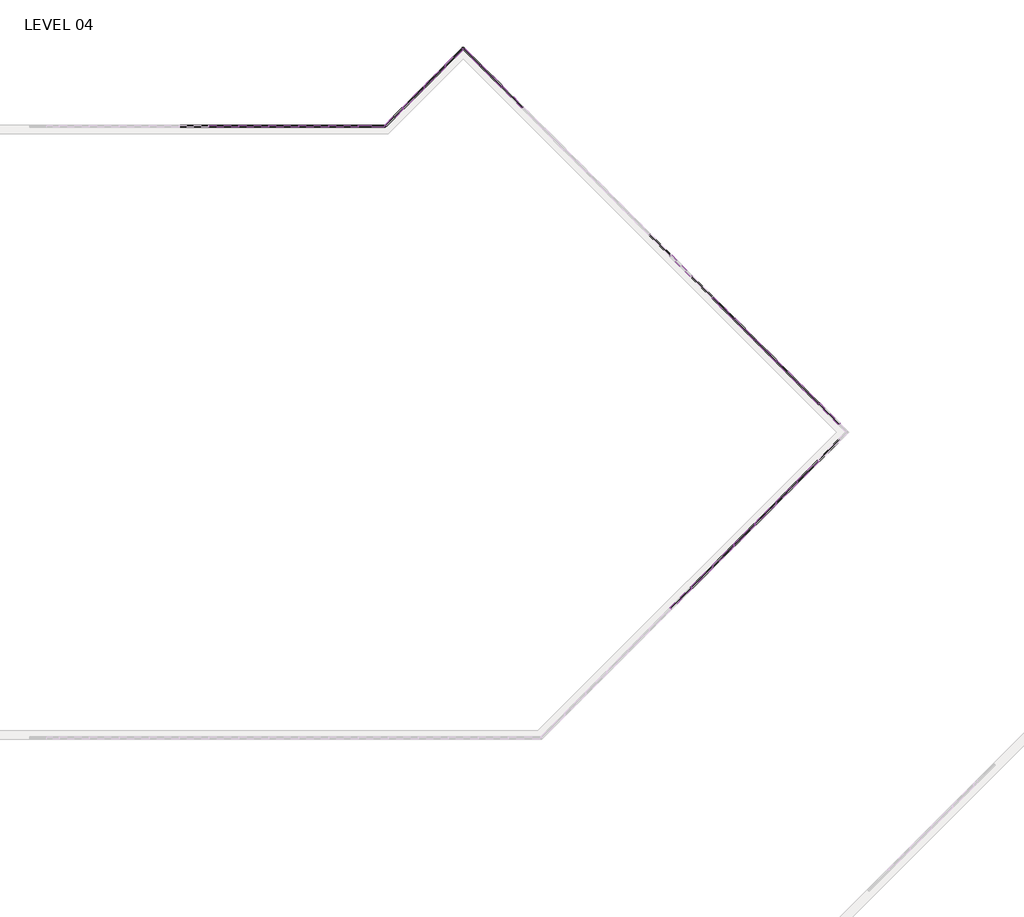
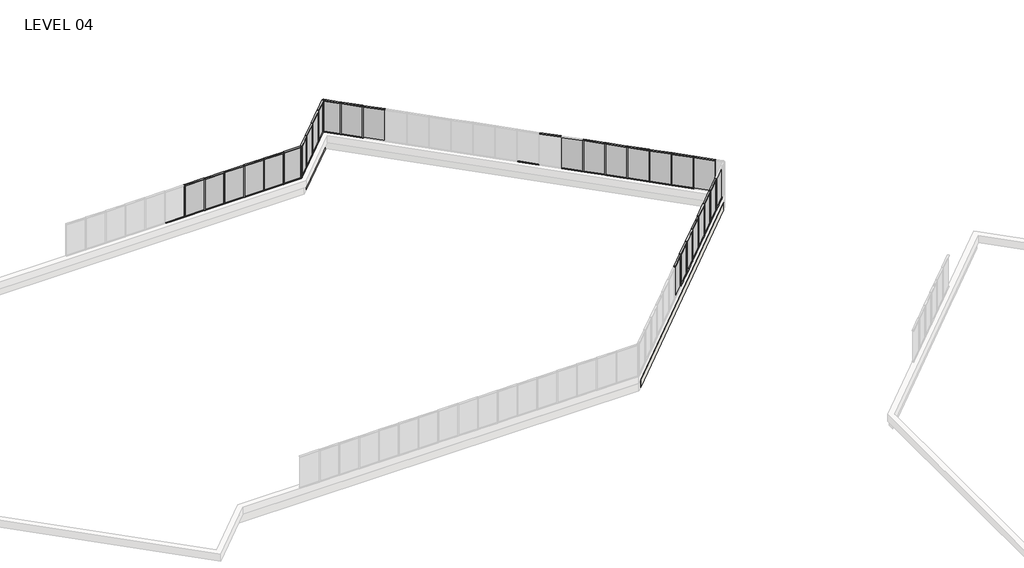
# One storey, part 15 of 17: 82 members, 28 plates, 2 walls.
"""IFC4 building model written with IfcOpenShell, lengths in millimetres."""

from ifc_helpers import new_model, si_unit, origin, place, context, project, spatial, faceted_brep, transform, mapped, element, save
from components import member_5247f267, member_e44af9ab, member_800970d4, member_45eb7f2e, member_ed9c17d6, member_53409b32, member_43bac76b, member_0b71a88d, plate_67294edd, plate_048e4634, plate_aaac5d3d, plate_9c66726c, plate_e0fd5134, plate_62af1d3c, plate_903242d9, plate_0d1907f3, plate_15429445

model = new_model("IFC4")

# Units and contexts
model_context = context("Model", 3, world=origin())
ifc_project = project(units=[si_unit("LENGTHUNIT", "METRE", prefix="MILLI")], contexts=[model_context])

# Site, building, storey
site = spatial("IfcSite", under=ifc_project)
building = spatial("IfcBuilding", under=site)
storey = spatial("IfcBuildingStorey", under=building, Name="LEVEL 04", Elevation=12052.3)

# Members
placement = place(None, origin())
member_shape = member_5247f267(model_context)
element("IfcMember", 1, ObjectType="Rectangular Mullion : 2\" x 4.5\" rectangular", at=placement, inside=storey, context=model_context, shape_type="MappedRepresentation", body=[
    mapped(member_shape, transform((39706.55, 120127.9523049, 12052.3), x_axis=(0.0, 0.0, -1.0), y_axis=(0.0, 1.0, 0.0), z_axis=(1.0, 0.0, 0.0))),
])
element("IfcMember", 2, ObjectType="Rectangular Mullion : 2\" x 4.5\" rectangular", at=placement, inside=storey, context=model_context, shape_type="MappedRepresentation", body=[
    mapped(member_shape, transform((38182.55, 120127.9523049, 12052.3), x_axis=(0.0, 0.0, -1.0), y_axis=(0.0, 1.0, 0.0), z_axis=(1.0, 0.0, 0.0))),
])
element("IfcMember", 3, ObjectType="Rectangular Mullion : 2\" x 4.5\" rectangular", at=placement, inside=storey, context=model_context, shape_type="MappedRepresentation", body=[
    mapped(member_shape, transform((36658.55, 120127.9523049, 12052.3), x_axis=(0.0, 0.0, -1.0), y_axis=(0.0, 1.0, 0.0), z_axis=(1.0, 0.0, 0.0))),
])
element("IfcMember", 4, ObjectType="Rectangular Mullion : 2\" x 4.5\" rectangular", at=placement, inside=storey, context=model_context, shape_type="MappedRepresentation", body=[
    mapped(member_shape, transform((35134.55, 120127.9523049, 12052.3), x_axis=(0.0, 0.0, -1.0), y_axis=(0.0, 1.0, 0.0), z_axis=(1.0, 0.0, 0.0))),
])
element("IfcMember", 5, ObjectType="Rectangular Mullion : 2\" x 4.5\" rectangular", at=placement, inside=storey, context=model_context, shape_type="MappedRepresentation", body=[
    mapped(member_shape, transform((32086.55, 120127.9523049, 12052.3), x_axis=(0.0, 0.0, -1.0), y_axis=(0.0, 1.0, 0.0), z_axis=(1.0, 0.0, 0.0))),
])
element("IfcMember", 6, ObjectType="Rectangular Mullion : 2\" x 4.5\" rectangular", at=placement, inside=storey, context=model_context, shape_type="MappedRepresentation", body=[
    mapped(member_shape, transform((33610.55, 120127.9523049, 12052.3), x_axis=(0.0, 0.0, -1.0), y_axis=(0.0, 1.0, 0.0), z_axis=(1.0, 0.0, 0.0))),
])
element("IfcMember", 7, ObjectType="Rectangular Mullion : 2\" x 4.5\" rectangular", at=placement, inside=storey, context=model_context, shape_type="MappedRepresentation", body=[
    mapped(member_shape, transform((56719.8907816, 96634.0369509, 12052.3), x_axis=(0.0, 0.0, -1.0), y_axis=(0.7071067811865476, -0.7071067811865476, 0.0), z_axis=(-0.7071067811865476, -0.7071067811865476, 0.0))),
])
element("IfcMember", 8, ObjectType="Rectangular Mullion : 2\" x 4.5\" rectangular", at=placement, inside=storey, context=model_context, shape_type="MappedRepresentation", body=[
    mapped(member_shape, transform((57797.5067145, 97711.6528837, 12052.3), x_axis=(0.0, 0.0, -1.0), y_axis=(0.7071067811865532, -0.7071067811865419, 0.0), z_axis=(-0.7071067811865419, -0.7071067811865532, 0.0))),
])
element("IfcMember", 9, ObjectType="Rectangular Mullion : 2\" x 4.5\" rectangular", at=placement, inside=storey, context=model_context, shape_type="MappedRepresentation", body=[
    mapped(member_shape, transform((58875.1226473, 98789.2688165, 12052.3), x_axis=(0.0, 0.0, -1.0), y_axis=(0.7071067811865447, -0.7071067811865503, 0.0), z_axis=(-0.7071067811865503, -0.7071067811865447, 0.0))),
])
element("IfcMember", 10, ObjectType="Rectangular Mullion : 2\" x 4.5\" rectangular", at=placement, inside=storey, context=model_context, shape_type="MappedRepresentation", body=[
    mapped(member_shape, transform((61030.3693146, 100944.5154839, 12052.3), x_axis=(0.0, 0.0, -1.0), y_axis=(0.7071067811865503, -0.7071067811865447, 0.0), z_axis=(-0.7071067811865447, -0.7071067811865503, 0.0))),
])
element("IfcMember", 11, ObjectType="Rectangular Mullion : 2\" x 4.5\" rectangular", at=placement, inside=storey, context=model_context, shape_type="MappedRepresentation", body=[
    mapped(member_shape, transform((59952.7459809, 99866.8921502, 12052.3), x_axis=(0.0, 0.0, -1.0), y_axis=(0.7071067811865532, -0.7071067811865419, 0.0), z_axis=(-0.7071067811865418, -0.7071067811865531, 0.0))),
])
element("IfcMember", 12, ObjectType="Rectangular Mullion : 2\" x 4.5\" rectangular", at=placement, inside=storey, context=model_context, shape_type="MappedRepresentation", body=[
    mapped(member_shape, transform((62108.0000491, 102022.1462184, 12052.3), x_axis=(0.0, 0.0, -1.0), y_axis=(0.7071067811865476, -0.7071067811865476, 0.0), z_axis=(-0.7071067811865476, -0.7071067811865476, 0.0))),
])
element("IfcMember", 13, ObjectType="Rectangular Mullion : 2\" x 4.5\" rectangular", at=placement, inside=storey, context=model_context, shape_type="MappedRepresentation", body=[
    mapped(member_shape, transform((63185.6307836, 103099.7769529, 12052.3), x_axis=(0.0, 0.0, -1.0), y_axis=(0.7071067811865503, -0.7071067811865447, 0.0), z_axis=(-0.7071067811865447, -0.7071067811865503, 0.0))),
])
element("IfcMember", 14, ObjectType="Rectangular Mullion : 2\" x 4.5\" rectangular", at=placement, inside=storey, context=model_context, shape_type="MappedRepresentation", body=[
    mapped(member_shape, transform((62072.0790246, 107097.5294159, 12052.3), x_axis=(0.0, 0.0, -1.0), y_axis=(0.7071067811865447, 0.7071067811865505, 0.0), z_axis=(0.7071067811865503, -0.7071067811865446, 0.0))),
])
element("IfcMember", 15, ObjectType="Rectangular Mullion : 2\" x 4.5\" rectangular", at=placement, inside=storey, context=model_context, shape_type="MappedRepresentation", body=[
    mapped(member_shape, transform((60994.4482901, 108175.1601505, 12052.3), x_axis=(0.0, 0.0, -1.0), y_axis=(0.7071067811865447, 0.7071067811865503, 0.0), z_axis=(0.7071067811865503, -0.7071067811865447, 0.0))),
])
element("IfcMember", 16, ObjectType="Rectangular Mullion : 2\" x 4.5\" rectangular", at=placement, inside=storey, context=model_context, shape_type="MappedRepresentation", body=[
    mapped(member_shape, transform((58839.2225556, 110330.385885, 12052.3), x_axis=(0.0, 0.0, -1.0), y_axis=(0.7071067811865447, 0.7071067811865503, 0.0), z_axis=(0.7071067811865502, -0.7071067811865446, 0.0))),
])
element("IfcMember", 17, ObjectType="Rectangular Mullion : 2\" x 4.5\" rectangular", at=placement, inside=storey, context=model_context, shape_type="MappedRepresentation", body=[
    mapped(member_shape, transform((57761.6275556, 111407.980885, 12052.3), x_axis=(0.0, 0.0, -1.0), y_axis=(0.7071067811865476, 0.7071067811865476, 0.0), z_axis=(0.7071067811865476, -0.7071067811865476, 0.0))),
])
element("IfcMember", 18, ObjectType="Rectangular Mullion : 2\" x 4.5\" rectangular", at=placement, inside=storey, context=model_context, shape_type="MappedRepresentation", body=[
    mapped(member_shape, transform((63149.7097592, 106019.8986814, 12052.3), x_axis=(0.0, 0.0, -1.0), y_axis=(0.7071067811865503, 0.7071067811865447, 0.0), z_axis=(0.7071067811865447, -0.7071067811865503, 0.0))),
])
element("IfcMember", 19, ObjectType="Rectangular Mullion : 2\" x 4.5\" rectangular", at=placement, inside=storey, context=model_context, shape_type="MappedRepresentation", body=[
    mapped(member_shape, transform((59916.8354228, 109252.7730177, 12052.3), x_axis=(0.0, 0.0, -1.0), y_axis=(0.7071067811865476, 0.7071067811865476, 0.0), z_axis=(0.7071067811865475, -0.7071067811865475, 0.0))),
])
element("IfcMember", 20, ObjectType="Rectangular Mullion : 2\" x 4.5\" rectangular", at=placement, inside=storey, context=model_context, shape_type="MappedRepresentation", body=[
    mapped(member_shape, transform((47009.3767128, 122160.2317277, 12052.3), x_axis=(0.0, 0.0, -1.0), y_axis=(0.7071067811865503, 0.7071067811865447, 0.0), z_axis=(0.7071067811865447, -0.7071067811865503, 0.0))),
])
element("IfcMember", 21, ObjectType="Rectangular Mullion : 2\" x 4.5\" rectangular", at=placement, inside=storey, context=model_context, shape_type="MappedRepresentation", body=[
    mapped(member_shape, transform((43059.572889, 122097.2813296, 12052.3), x_axis=(0.0, 0.0, -1.0), y_axis=(-0.7071067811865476, 0.7071067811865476, 0.0), z_axis=(0.7071067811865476, 0.7071067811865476, 0.0))),
])
element("IfcMember", 22, ObjectType="Rectangular Mullion : 2\" x 4.5\" rectangular", at=placement, inside=storey, context=model_context, shape_type="MappedRepresentation", body=[
    mapped(member_shape, transform((44137.2036235, 123174.9120641, 12052.3), x_axis=(0.0, 0.0, -1.0), y_axis=(-0.7071067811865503, 0.7071067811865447, 0.0), z_axis=(0.7071067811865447, 0.7071067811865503, 0.0))),
])
element("IfcMember", 23, ObjectType="Rectangular Mullion : 2\" x 4.5\" rectangular", at=placement, inside=storey, context=model_context, shape_type="MappedRepresentation", body=[
    mapped(member_shape, transform((38233.35, 120127.9523049, 14643.1), x_axis=(0.0, 0.0, 1.0), y_axis=(0.0, 1.0, 0.0), z_axis=(-1.0, 0.0, 0.0))),
])
element("IfcMember", 24, ObjectType="Rectangular Mullion : 2\" x 4.5\" rectangular", at=placement, inside=storey, context=model_context, shape_type="MappedRepresentation", body=[
    mapped(member_shape, transform((36709.35, 120127.9523049, 14643.1), x_axis=(0.0, 0.0, 1.0), y_axis=(0.0, 1.0, 0.0), z_axis=(-1.0, 0.0, 0.0))),
])
element("IfcMember", 25, ObjectType="Rectangular Mullion : 2\" x 4.5\" rectangular", at=placement, inside=storey, context=model_context, shape_type="MappedRepresentation", body=[
    mapped(member_shape, transform((35185.35, 120127.9523049, 14643.1), x_axis=(0.0, 0.0, 1.0), y_axis=(0.0, 1.0, 0.0), z_axis=(-1.0, 0.0, 0.0))),
])
element("IfcMember", 26, ObjectType="Rectangular Mullion : 2\" x 4.5\" rectangular", at=placement, inside=storey, context=model_context, shape_type="MappedRepresentation", body=[
    mapped(member_shape, transform((32137.35, 120127.9523049, 14643.1), x_axis=(0.0, 0.0, 1.0), y_axis=(0.0, 1.0, 0.0), z_axis=(-1.0, 0.0, 0.0))),
])
element("IfcMember", 27, ObjectType="Rectangular Mullion : 2\" x 4.5\" rectangular", at=placement, inside=storey, context=model_context, shape_type="MappedRepresentation", body=[
    mapped(member_shape, transform((33661.35, 120127.9523049, 14643.1), x_axis=(0.0, 0.0, 1.0), y_axis=(0.0, 1.0, 0.0), z_axis=(-1.0, 0.0, 0.0))),
])
element("IfcMember", 28, ObjectType="Rectangular Mullion : 2\" x 4.5\" rectangular", at=placement, inside=storey, context=model_context, shape_type="MappedRepresentation", body=[
    mapped(member_shape, transform((56683.9697572, 96598.1159265, 14643.1), x_axis=(0.0, 0.0, 1.0), y_axis=(0.7071067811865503, -0.7071067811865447, 0.0), z_axis=(0.7071067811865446, 0.7071067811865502, 0.0))),
])
element("IfcMember", 29, ObjectType="Rectangular Mullion : 2\" x 4.5\" rectangular", at=placement, inside=storey, context=model_context, shape_type="MappedRepresentation", body=[
    mapped(member_shape, transform((57761.58569, 97675.7318593, 14643.1), x_axis=(0.0, 0.0, 1.0), y_axis=(0.7071067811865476, -0.7071067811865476, 0.0), z_axis=(0.7071067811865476, 0.7071067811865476, 0.0))),
])
element("IfcMember", 30, ObjectType="Rectangular Mullion : 2\" x 4.5\" rectangular", at=placement, inside=storey, context=model_context, shape_type="MappedRepresentation", body=[
    mapped(member_shape, transform((58839.2016228, 98753.3477921, 14643.1), x_axis=(0.0, 0.0, 1.0), y_axis=(0.7071067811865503, -0.7071067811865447, 0.0), z_axis=(0.7071067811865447, 0.7071067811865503, 0.0))),
])
element("IfcMember", 31, ObjectType="Rectangular Mullion : 2\" x 4.5\" rectangular", at=placement, inside=storey, context=model_context, shape_type="MappedRepresentation", body=[
    mapped(member_shape, transform((60994.4482901, 100908.5944594, 14643.1), x_axis=(0.0, 0.0, 1.0), y_axis=(0.7071067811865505, -0.7071067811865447, 0.0), z_axis=(0.7071067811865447, 0.7071067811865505, 0.0))),
])
element("IfcMember", 32, ObjectType="Rectangular Mullion : 2\" x 4.5\" rectangular", at=placement, inside=storey, context=model_context, shape_type="MappedRepresentation", body=[
    mapped(member_shape, transform((59916.8249564, 99830.9711257, 14643.1), x_axis=(0.0, 0.0, 1.0), y_axis=(0.7071067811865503, -0.7071067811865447, 0.0), z_axis=(0.7071067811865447, 0.7071067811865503, 0.0))),
])
element("IfcMember", 33, ObjectType="Rectangular Mullion : 2\" x 4.5\" rectangular", at=placement, inside=storey, context=model_context, shape_type="MappedRepresentation", body=[
    mapped(member_shape, transform((62072.0790246, 101986.2251939, 14643.1), x_axis=(0.0, 0.0, 1.0), y_axis=(0.7071067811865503, -0.7071067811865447, 0.0), z_axis=(0.7071067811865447, 0.7071067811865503, 0.0))),
])
element("IfcMember", 34, ObjectType="Rectangular Mullion : 2\" x 4.5\" rectangular", at=placement, inside=storey, context=model_context, shape_type="MappedRepresentation", body=[
    mapped(member_shape, transform((63149.7097592, 103063.8559285, 14643.1), x_axis=(0.0, 0.0, 1.0), y_axis=(0.7071067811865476, -0.7071067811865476, 0.0), z_axis=(0.7071067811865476, 0.7071067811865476, 0.0))),
])
element("IfcMember", 35, ObjectType="Rectangular Mullion : 2\" x 4.5\" rectangular", at=placement, inside=storey, context=model_context, shape_type="MappedRepresentation", body=[
    mapped(member_shape, transform((62108.0000491, 107061.6083914, 14643.1), x_axis=(0.0, 0.0, 1.0), y_axis=(0.7071067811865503, 0.7071067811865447, 0.0), z_axis=(-0.7071067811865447, 0.7071067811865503, 0.0))),
])
element("IfcMember", 36, ObjectType="Rectangular Mullion : 2\" x 4.5\" rectangular", at=placement, inside=storey, context=model_context, shape_type="MappedRepresentation", body=[
    mapped(member_shape, transform((61030.3693146, 108139.239126, 14643.1), x_axis=(0.0, 0.0, 1.0), y_axis=(0.7071067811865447, 0.7071067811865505, 0.0), z_axis=(-0.7071067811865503, 0.7071067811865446, 0.0))),
])
element("IfcMember", 37, ObjectType="Rectangular Mullion : 2\" x 4.5\" rectangular", at=placement, inside=storey, context=model_context, shape_type="MappedRepresentation", body=[
    mapped(member_shape, transform((58875.1435801, 110294.4648605, 14643.1), x_axis=(0.0, 0.0, 1.0), y_axis=(0.7071067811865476, 0.7071067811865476, 0.0), z_axis=(-0.7071067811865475, 0.7071067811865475, 0.0))),
])
element("IfcMember", 38, ObjectType="Rectangular Mullion : 2\" x 4.5\" rectangular", at=placement, inside=storey, context=model_context, shape_type="MappedRepresentation", body=[
    mapped(member_shape, transform((57797.5485801, 111372.0598605, 14643.1), x_axis=(0.0, 0.0, 1.0), y_axis=(0.7071067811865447, 0.7071067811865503, 0.0), z_axis=(-0.7071067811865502, 0.7071067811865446, 0.0))),
])
element("IfcMember", 39, ObjectType="Rectangular Mullion : 2\" x 4.5\" rectangular", at=placement, inside=storey, context=model_context, shape_type="MappedRepresentation", body=[
    mapped(member_shape, transform((55642.3585801, 113527.2498605, 14643.1), x_axis=(0.0, 0.0, 1.0), y_axis=(0.7071067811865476, 0.7071067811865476, 0.0), z_axis=(-0.7071067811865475, 0.7071067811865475, 0.0))),
])
element("IfcMember", 40, ObjectType="Rectangular Mullion : 2\" x 4.5\" rectangular", at=placement, inside=storey, context=model_context, shape_type="MappedRepresentation", body=[
    mapped(member_shape, transform((63185.6307836, 105983.9776569, 14643.1), x_axis=(0.0, 0.0, 1.0), y_axis=(0.7071067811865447, 0.7071067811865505, 0.0), z_axis=(-0.7071067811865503, 0.7071067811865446, 0.0))),
])
element("IfcMember", 41, ObjectType="Rectangular Mullion : 2\" x 4.5\" rectangular", at=placement, inside=storey, context=model_context, shape_type="MappedRepresentation", body=[
    mapped(member_shape, transform((59952.7564473, 109216.8519932, 14643.1), x_axis=(0.0, 0.0, 1.0), y_axis=(0.7071067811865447, 0.7071067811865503, 0.0), z_axis=(-0.7071067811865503, 0.7071067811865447, 0.0))),
])
element("IfcMember", 42, ObjectType="Rectangular Mullion : 2\" x 4.5\" rectangular", at=placement, inside=storey, context=model_context, shape_type="MappedRepresentation", body=[
    mapped(member_shape, transform((47045.2977373, 122124.3107033, 14643.1), x_axis=(0.0, 0.0, 1.0), y_axis=(0.7071067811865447, 0.7071067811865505, 0.0), z_axis=(-0.7071067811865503, 0.7071067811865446, 0.0))),
])
element("IfcMember", 43, ObjectType="Rectangular Mullion : 2\" x 4.5\" rectangular", at=placement, inside=storey, context=model_context, shape_type="MappedRepresentation", body=[
    mapped(member_shape, transform((45967.6670028, 123201.9414378, 14643.1), x_axis=(0.0, 0.0, 1.0), y_axis=(0.7071067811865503, 0.7071067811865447, 0.0), z_axis=(-0.7071067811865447, 0.7071067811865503, 0.0))),
])
element("IfcMember", 44, ObjectType="Rectangular Mullion : 2\" x 4.5\" rectangular", at=placement, inside=storey, context=model_context, shape_type="MappedRepresentation", body=[
    mapped(member_shape, transform((43095.4939135, 122133.202354, 14643.1), x_axis=(0.0, 0.0, 1.0), y_axis=(-0.7071067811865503, 0.7071067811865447, 0.0), z_axis=(-0.7071067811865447, -0.7071067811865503, 0.0))),
])
element("IfcMember", 45, ObjectType="Rectangular Mullion : 2\" x 4.5\" rectangular", at=placement, inside=storey, context=model_context, shape_type="MappedRepresentation", body=[
    mapped(member_shape, transform((42017.863179, 121055.5716195, 14643.1), x_axis=(0.0, 0.0, 1.0), y_axis=(-0.7071067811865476, 0.7071067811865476, 0.0), z_axis=(-0.7071067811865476, -0.7071067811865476, 0.0))),
])
member_2_shape = member_e44af9ab(model_context)
element("IfcMember", 46, ObjectType="Rectangular Mullion : 2\" x 4.5\" rectangular", at=placement, inside=storey, context=model_context, shape_type="MappedRepresentation", body=[
    mapped(member_2_shape, transform((39731.95, 120127.9523049, 12052.3), x_axis=(-1.0, 0.0, 0.0), y_axis=(0.0, 1.0, 0.0), z_axis=(0.0, 0.0, -1.0))),
])
element("IfcMember", 47, ObjectType="Rectangular Mullion : 2\" x 4.5\" rectangular", at=placement, inside=storey, context=model_context, shape_type="MappedRepresentation", body=[
    mapped(member_2_shape, transform((38207.95, 120127.9523049, 12052.3), x_axis=(-1.0, 0.0, 0.0), y_axis=(0.0, 1.0, 0.0), z_axis=(0.0, 0.0, -1.0))),
])
element("IfcMember", 48, ObjectType="Rectangular Mullion : 2\" x 4.5\" rectangular", at=placement, inside=storey, context=model_context, shape_type="MappedRepresentation", body=[
    mapped(member_2_shape, transform((36683.95, 120127.9523049, 12052.3), x_axis=(-1.0, 0.0, 0.0), y_axis=(0.0, 1.0, 0.0), z_axis=(0.0, 0.0, -1.0))),
])
element("IfcMember", 49, ObjectType="Rectangular Mullion : 2\" x 4.5\" rectangular", at=placement, inside=storey, context=model_context, shape_type="MappedRepresentation", body=[
    mapped(member_2_shape, transform((35159.95, 120127.9523049, 12052.3), x_axis=(-1.0, 0.0, 0.0), y_axis=(0.0, 1.0, 0.0), z_axis=(0.0, 0.0, -1.0))),
])
element("IfcMember", 50, ObjectType="Rectangular Mullion : 2\" x 4.5\" rectangular", at=placement, inside=storey, context=model_context, shape_type="MappedRepresentation", body=[
    mapped(member_2_shape, transform((32111.95, 120127.9523049, 12052.3), x_axis=(-1.0, 0.0, 0.0), y_axis=(0.0, 1.0, 0.0), z_axis=(0.0, 0.0, -1.0))),
])
element("IfcMember", 51, ObjectType="Rectangular Mullion : 2\" x 4.5\" rectangular", at=placement, inside=storey, context=model_context, shape_type="MappedRepresentation", body=[
    mapped(member_2_shape, transform((33635.95, 120127.9523049, 12052.3), x_axis=(-1.0, 0.0, 0.0), y_axis=(0.0, 1.0, 0.0), z_axis=(0.0, 0.0, -1.0))),
])
element("IfcMember", 52, ObjectType="Rectangular Mullion : 2\" x 4.5\" rectangular", at=placement, inside=storey, context=model_context, shape_type="MappedRepresentation", body=[
    mapped(member_2_shape, transform((56701.9302694, 96616.0764387, 12052.3), x_axis=(0.7071067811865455, 0.7071067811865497, 0.0), y_axis=(0.7071067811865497, -0.7071067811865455, 0.0), z_axis=(0.0, 0.0, -1.0))),
])
element("IfcMember", 53, ObjectType="Rectangular Mullion : 2\" x 4.5\" rectangular", at=placement, inside=storey, context=model_context, shape_type="MappedRepresentation", body=[
    mapped(member_2_shape, transform((57779.5462022, 97693.6923715, 12052.3), x_axis=(0.7071067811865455, 0.7071067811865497, 0.0), y_axis=(0.7071067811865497, -0.7071067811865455, 0.0), z_axis=(0.0, 0.0, -1.0))),
])
element("IfcMember", 54, ObjectType="Rectangular Mullion : 2\" x 4.5\" rectangular", at=placement, inside=storey, context=model_context, shape_type="MappedRepresentation", body=[
    mapped(member_2_shape, transform((58857.162135, 98771.3083043, 12052.3), x_axis=(0.7071067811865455, 0.7071067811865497, 0.0), y_axis=(0.7071067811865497, -0.7071067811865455, 0.0), z_axis=(0.0, 0.0, -1.0))),
])
element("IfcMember", 55, ObjectType="Rectangular Mullion : 2\" x 4.5\" rectangular", at=placement, inside=storey, context=model_context, shape_type="MappedRepresentation", body=[
    mapped(member_2_shape, transform((61012.4088023, 100926.5549716, 12052.3), x_axis=(0.7071067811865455, 0.7071067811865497, 0.0), y_axis=(0.7071067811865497, -0.7071067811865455, 0.0), z_axis=(0.0, 0.0, -1.0))),
])
element("IfcMember", 56, ObjectType="Rectangular Mullion : 2\" x 4.5\" rectangular", at=placement, inside=storey, context=model_context, shape_type="MappedRepresentation", body=[
    mapped(member_2_shape, transform((59934.7854687, 99848.931638, 12052.3), x_axis=(0.7071067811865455, 0.7071067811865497, 0.0), y_axis=(0.7071067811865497, -0.7071067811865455, 0.0), z_axis=(0.0, 0.0, -1.0))),
])
element("IfcMember", 57, ObjectType="Rectangular Mullion : 2\" x 4.5\" rectangular", at=placement, inside=storey, context=model_context, shape_type="MappedRepresentation", body=[
    mapped(member_2_shape, transform((62090.0395369, 102004.1857062, 12052.3), x_axis=(0.7071067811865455, 0.7071067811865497, 0.0), y_axis=(0.7071067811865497, -0.7071067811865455, 0.0), z_axis=(0.0, 0.0, -1.0))),
])
element("IfcMember", 58, ObjectType="Rectangular Mullion : 2\" x 4.5\" rectangular", at=placement, inside=storey, context=model_context, shape_type="MappedRepresentation", body=[
    mapped(member_2_shape, transform((63167.6702714, 103081.8164407, 12052.3), x_axis=(0.7071067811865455, 0.7071067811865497, 0.0), y_axis=(0.7071067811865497, -0.7071067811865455, 0.0), z_axis=(0.0, 0.0, -1.0))),
])
element("IfcMember", 59, ObjectType="Rectangular Mullion : 2\" x 4.5\" rectangular", at=placement, inside=storey, context=model_context, shape_type="MappedRepresentation", body=[
    mapped(member_2_shape, transform((62090.0395369, 107079.5689037, 12052.3), x_axis=(-0.7071067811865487, 0.7071067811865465, 0.0), y_axis=(0.7071067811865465, 0.7071067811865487, 0.0), z_axis=(0.0, 0.0, -1.0))),
])
element("IfcMember", 60, ObjectType="Rectangular Mullion : 2\" x 4.5\" rectangular", at=placement, inside=storey, context=model_context, shape_type="MappedRepresentation", body=[
    mapped(member_2_shape, transform((61012.4088023, 108157.1996382, 12052.3), x_axis=(-0.7071067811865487, 0.7071067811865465, 0.0), y_axis=(0.7071067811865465, 0.7071067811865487, 0.0), z_axis=(0.0, 0.0, -1.0))),
])
element("IfcMember", 61, ObjectType="Rectangular Mullion : 2\" x 4.5\" rectangular", at=placement, inside=storey, context=model_context, shape_type="MappedRepresentation", body=[
    mapped(member_2_shape, transform((58857.1830678, 110312.4253727, 12052.3), x_axis=(-0.7071067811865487, 0.7071067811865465, 0.0), y_axis=(0.7071067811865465, 0.7071067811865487, 0.0), z_axis=(0.0, 0.0, -1.0))),
])
element("IfcMember", 62, ObjectType="Rectangular Mullion : 2\" x 4.5\" rectangular", at=placement, inside=storey, context=model_context, shape_type="MappedRepresentation", body=[
    mapped(member_2_shape, transform((57779.5880678, 111390.0203727, 12052.3), x_axis=(-0.7071067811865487, 0.7071067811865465, 0.0), y_axis=(0.7071067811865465, 0.7071067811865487, 0.0), z_axis=(0.0, 0.0, -1.0))),
])
element("IfcMember", 63, ObjectType="Rectangular Mullion : 2\" x 4.5\" rectangular", at=placement, inside=storey, context=model_context, shape_type="MappedRepresentation", body=[
    mapped(member_2_shape, transform((63167.6702714, 106001.9381692, 12052.3), x_axis=(-0.7071067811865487, 0.7071067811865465, 0.0), y_axis=(0.7071067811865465, 0.7071067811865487, 0.0), z_axis=(0.0, 0.0, -1.0))),
])
element("IfcMember", 64, ObjectType="Rectangular Mullion : 2\" x 4.5\" rectangular", at=placement, inside=storey, context=model_context, shape_type="MappedRepresentation", body=[
    mapped(member_2_shape, transform((59934.7959351, 109234.8125055, 12052.3), x_axis=(-0.7071067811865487, 0.7071067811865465, 0.0), y_axis=(0.7071067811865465, 0.7071067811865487, 0.0), z_axis=(0.0, 0.0, -1.0))),
])
element("IfcMember", 65, ObjectType="Rectangular Mullion : 2\" x 4.5\" rectangular", at=placement, inside=storey, context=model_context, shape_type="MappedRepresentation", body=[
    mapped(member_2_shape, transform((47027.3372251, 122142.2712155, 12052.3), x_axis=(-0.7071067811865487, 0.7071067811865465, 0.0), y_axis=(0.7071067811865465, 0.7071067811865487, 0.0), z_axis=(0.0, 0.0, -1.0))),
])
element("IfcMember", 66, ObjectType="Rectangular Mullion : 2\" x 4.5\" rectangular", at=placement, inside=storey, context=model_context, shape_type="MappedRepresentation", body=[
    mapped(member_2_shape, transform((45949.7064905, 123219.90195, 12052.3), x_axis=(-0.7071067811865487, 0.7071067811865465, 0.0), y_axis=(0.7071067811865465, 0.7071067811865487, 0.0), z_axis=(0.0, 0.0, -1.0))),
])
element("IfcMember", 67, ObjectType="Rectangular Mullion : 2\" x 4.5\" rectangular", at=placement, inside=storey, context=model_context, shape_type="MappedRepresentation", body=[
    mapped(member_2_shape, transform((43077.5334012, 122115.2418418, 12052.3), x_axis=(-0.7071067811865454, -0.7071067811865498, 0.0), y_axis=(-0.7071067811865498, 0.7071067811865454, 0.0), z_axis=(0.0, 0.0, -1.0))),
])
element("IfcMember", 68, ObjectType="Rectangular Mullion : 2\" x 4.5\" rectangular", at=placement, inside=storey, context=model_context, shape_type="MappedRepresentation", body=[
    mapped(member_2_shape, transform((41999.9026667, 121037.6111073, 12052.3), x_axis=(-0.7071067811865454, -0.7071067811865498, 0.0), y_axis=(-0.7071067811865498, 0.7071067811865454, 0.0), z_axis=(0.0, 0.0, -1.0))),
])
element("IfcMember", 69, ObjectType="Rectangular Mullion : 2\" x 4.5\" rectangular", at=placement, inside=storey, context=model_context, shape_type="MappedRepresentation", body=[
    mapped(member_2_shape, transform((44155.1641358, 123192.8725763, 12052.3), x_axis=(-0.7071067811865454, -0.7071067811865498, 0.0), y_axis=(-0.7071067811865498, 0.7071067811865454, 0.0), z_axis=(0.0, 0.0, -1.0))),
])
member_3_shape = member_800970d4(model_context)
element("IfcMember", 70, ObjectType="Rectangular Mullion : 2\" x 4.5\" rectangular", at=placement, inside=storey, context=model_context, shape_type="MappedRepresentation", body=[
    mapped(member_3_shape, transform((45065.95, 124103.6584406, 12052.3), x_axis=(-0.7071067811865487, 0.7071067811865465, 0.0), y_axis=(0.7071067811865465, 0.7071067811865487, 0.0), z_axis=(0.0, 0.0, -1.0))),
])
element("IfcMember", 71, ObjectType="Rectangular Mullion : 2\" x 4.5\" rectangular", at=placement, inside=storey, context=model_context, shape_type="MappedRepresentation", body=[
    mapped(member_3_shape, transform((41090.2438644, 120127.9523049, 12052.3), x_axis=(-0.7071067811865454, -0.7071067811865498, 0.0), y_axis=(-0.7071067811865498, 0.7071067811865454, 0.0), z_axis=(0.0, 0.0, -1.0))),
])
element("IfcMember", 72, ObjectType="Rectangular Mullion : 2\" x 4.5\" rectangular", at=placement, inside=storey, context=model_context, shape_type="MappedRepresentation", body=[
    mapped(member_3_shape, transform((41090.2438644, 120127.9523049, 14643.1), x_axis=(1.0, 0.0, 0.0), y_axis=(0.0, 1.0, 0.0), z_axis=(0.0, 0.0, 1.0))),
])
element("IfcMember", 73, ObjectType="Rectangular Mullion : 2\" x 4.5\" rectangular", at=placement, inside=storey, context=model_context, shape_type="MappedRepresentation", body=[
    mapped(member_3_shape, transform((45065.95, 124103.6584406, 14643.1), x_axis=(0.7071067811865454, 0.7071067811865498, 0.0), y_axis=(-0.7071067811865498, 0.7071067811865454, 0.0), z_axis=(0.0, 0.0, 1.0))),
])
member_4_shape = member_45eb7f2e(model_context)
element("IfcMember", 74, ObjectType="Rectangular Mullion : 2\" x 4.5\" rectangular", at=placement, inside=storey, context=model_context, shape_type="MappedRepresentation", body=[
    mapped(member_4_shape, transform((39757.35, 120127.9523049, 14643.1), x_axis=(0.0, 0.0, 1.0), y_axis=(0.0, 1.0, 0.0), z_axis=(-1.0, 0.0, 0.0))),
])
element("IfcMember", 75, ObjectType="Rectangular Mullion : 2\" x 4.5\" rectangular", at=placement, inside=storey, context=model_context, shape_type="MappedRepresentation", body=[
    mapped(member_4_shape, transform((41039.4438644, 120127.9523049, 12052.3), x_axis=(0.0, 0.0, -1.0), y_axis=(0.0, 1.0, 0.0), z_axis=(1.0, 0.0, 0.0))),
])
member_5_shape = member_ed9c17d6(model_context)
element("IfcMember", 76, ObjectType="Rectangular Mullion : 2\" x 4.5\" rectangular", at=placement, inside=storey, context=model_context, shape_type="MappedRepresentation", body=[
    mapped(member_5_shape, transform((55606.4375556, 113563.170885, 12052.3), x_axis=(0.0, 0.0, -1.0), y_axis=(0.7071067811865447, 0.7071067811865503, 0.0), z_axis=(0.7071067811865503, -0.7071067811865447, 0.0))),
])
member_6_shape = member_53409b32(model_context)
element("IfcMember", 77, ObjectType="Rectangular Mullion : 2\" x 4.5\" rectangular", at=placement, inside=storey, context=model_context, shape_type="MappedRepresentation", body=[
    mapped(member_6_shape, transform((45101.8710245, 124067.7374161, 14643.1), x_axis=(0.0, 0.0, 1.0), y_axis=(0.7071067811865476, 0.7071067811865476, 0.0), z_axis=(-0.7071067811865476, 0.7071067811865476, 0.0))),
])
element("IfcMember", 78, ObjectType="Rectangular Mullion : 2\" x 4.5\" rectangular", at=placement, inside=storey, context=model_context, shape_type="MappedRepresentation", body=[
    mapped(member_6_shape, transform((45931.7459783, 123237.8624623, 12052.3), x_axis=(0.0, 0.0, -1.0), y_axis=(0.7071067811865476, 0.7071067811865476, 0.0), z_axis=(0.7071067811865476, -0.7071067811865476, 0.0))),
])
member_7_shape = member_43bac76b(model_context)
element("IfcMember", 79, ObjectType="Rectangular Mullion : 2\" x 4.5\" rectangular", at=placement, inside=storey, context=model_context, shape_type="MappedRepresentation", body=[
    mapped(member_7_shape, transform((41126.1648889, 120163.8733294, 14643.1), x_axis=(0.0, 0.0, 1.0), y_axis=(-0.7071067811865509, 0.7071067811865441, 0.0), z_axis=(-0.7071067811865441, -0.7071067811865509, 0.0))),
])
element("IfcMember", 80, ObjectType="Rectangular Mullion : 2\" x 4.5\" rectangular", at=placement, inside=storey, context=model_context, shape_type="MappedRepresentation", body=[
    mapped(member_7_shape, transform((41981.9421545, 121019.650595, 12052.3), x_axis=(0.0, 0.0, -1.0), y_axis=(-0.7071067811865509, 0.7071067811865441, 0.0), z_axis=(0.7071067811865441, 0.7071067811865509, 0.0))),
])
member_8_shape = member_0b71a88d(model_context)
element("IfcMember", 81, ObjectType="Rectangular Mullion : 2\" x 4.5\" rectangular", at=placement, inside=storey, context=model_context, shape_type="MappedRepresentation", body=[
    mapped(member_8_shape, transform((45030.0289755, 124067.7374161, 12052.3), x_axis=(0.0, 0.0, -1.0), y_axis=(-0.7071067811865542, 0.7071067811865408, 0.0), z_axis=(0.7071067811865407, 0.7071067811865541, 0.0))),
])
element("IfcMember", 82, ObjectType="Rectangular Mullion : 2\" x 4.5\" rectangular", at=placement, inside=storey, context=model_context, shape_type="MappedRepresentation", body=[
    mapped(member_8_shape, transform((44173.124648, 123210.8330886, 14643.1), x_axis=(0.0, 0.0, 1.0), y_axis=(-0.7071067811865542, 0.7071067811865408, 0.0), z_axis=(-0.7071067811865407, -0.7071067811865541, 0.0))),
])

# Plates
plate_shape = plate_67294edd(model_context)
element("IfcPlate", 83, ObjectType="System Panel : 1/4\" Glass", at=placement, inside=storey, context=model_context, shape_type="MappedRepresentation", body=[
    mapped(plate_shape, transform((38969.95, 120127.9523049, 12103.1), x_axis=(-1.0, 0.0, 0.0), y_axis=(0.0, -1.0, 0.0), z_axis=(0.0, 0.0, 1.0))),
])
element("IfcPlate", 84, ObjectType="System Panel : 1/4\" Glass", at=placement, inside=storey, context=model_context, shape_type="MappedRepresentation", body=[
    mapped(plate_shape, transform((37445.95, 120127.9523049, 12103.1), x_axis=(-1.0, 0.0, 0.0), y_axis=(0.0, -1.0, 0.0), z_axis=(0.0, 0.0, 1.0))),
])
element("IfcPlate", 85, ObjectType="System Panel : 1/4\" Glass", at=placement, inside=storey, context=model_context, shape_type="MappedRepresentation", body=[
    mapped(plate_shape, transform((35921.95, 120127.9523049, 12103.1), x_axis=(-1.0, 0.0, 0.0), y_axis=(0.0, -1.0, 0.0), z_axis=(0.0, 0.0, 1.0))),
])
element("IfcPlate", 86, ObjectType="System Panel : 1/4\" Glass", at=placement, inside=storey, context=model_context, shape_type="MappedRepresentation", body=[
    mapped(plate_shape, transform((34397.95, 120127.9523049, 12103.1), x_axis=(-1.0, 0.0, 0.0), y_axis=(0.0, -1.0, 0.0), z_axis=(0.0, 0.0, 1.0))),
])
element("IfcPlate", 87, ObjectType="System Panel : 1/4\" Glass", at=placement, inside=storey, context=model_context, shape_type="MappedRepresentation", body=[
    mapped(plate_shape, transform((32873.95, 120127.9523049, 12103.1), x_axis=(-1.0, 0.0, 0.0), y_axis=(0.0, -1.0, 0.0), z_axis=(0.0, 0.0, 1.0))),
])
element("IfcPlate", 88, ObjectType="System Panel : 1/4\" Glass", at=placement, inside=storey, context=model_context, shape_type="MappedRepresentation", body=[
    mapped(plate_shape, transform((61551.2241696, 101465.3703389, 12103.1), x_axis=(0.7071067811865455, 0.7071067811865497, 0.0), y_axis=(-0.7071067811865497, 0.7071067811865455, 0.0), z_axis=(0.0, 0.0, 1.0))),
])
element("IfcPlate", 89, ObjectType="System Panel : 1/4\" Glass", at=placement, inside=storey, context=model_context, shape_type="MappedRepresentation", body=[
    mapped(plate_shape, transform((62628.8549041, 102543.0010734, 12103.1), x_axis=(0.7071067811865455, 0.7071067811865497, 0.0), y_axis=(-0.7071067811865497, 0.7071067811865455, 0.0), z_axis=(0.0, 0.0, 1.0))),
])
element("IfcPlate", 90, ObjectType="System Panel : 1/4\" Glass", at=placement, inside=storey, context=model_context, shape_type="MappedRepresentation", body=[
    mapped(plate_shape, transform((63706.4856387, 103620.631808, 12103.1), x_axis=(0.7071067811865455, 0.7071067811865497, 0.0), y_axis=(-0.7071067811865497, 0.7071067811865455, 0.0), z_axis=(0.0, 0.0, 1.0))),
])
element("IfcPlate", 91, ObjectType="System Panel : 1/4\" Glass", at=placement, inside=storey, context=model_context, shape_type="MappedRepresentation", body=[
    mapped(plate_shape, transform((61551.2241696, 107618.3842709, 12103.1), x_axis=(-0.7071067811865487, 0.7071067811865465, 0.0), y_axis=(-0.7071067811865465, -0.7071067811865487, 0.0), z_axis=(0.0, 0.0, 1.0))),
])
element("IfcPlate", 92, ObjectType="System Panel : 1/4\" Glass", at=placement, inside=storey, context=model_context, shape_type="MappedRepresentation", body=[
    mapped(plate_shape, transform((62628.8549041, 106540.7535364, 12103.1), x_axis=(-0.7071067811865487, 0.7071067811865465, 0.0), y_axis=(-0.7071067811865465, -0.7071067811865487, 0.0), z_axis=(0.0, 0.0, 1.0))),
])
element("IfcPlate", 93, ObjectType="System Panel : 1/4\" Glass", at=placement, inside=storey, context=model_context, shape_type="MappedRepresentation", body=[
    mapped(plate_shape, transform((63706.4856387, 105463.1228019, 12103.1), x_axis=(-0.7071067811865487, 0.7071067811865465, 0.0), y_axis=(-0.7071067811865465, -0.7071067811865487, 0.0), z_axis=(0.0, 0.0, 1.0))),
])
element("IfcPlate", 94, ObjectType="System Panel : 1/4\" Glass", at=placement, inside=storey, context=model_context, shape_type="MappedRepresentation", body=[
    mapped(plate_shape, transform((47566.1525923, 121603.4558482, 12103.1), x_axis=(-0.7071067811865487, 0.7071067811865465, 0.0), y_axis=(-0.7071067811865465, -0.7071067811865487, 0.0), z_axis=(0.0, 0.0, 1.0))),
])
element("IfcPlate", 95, ObjectType="System Panel : 1/4\" Glass", at=placement, inside=storey, context=model_context, shape_type="MappedRepresentation", body=[
    mapped(plate_shape, transform((46488.5218578, 122681.0865828, 12103.1), x_axis=(-0.7071067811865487, 0.7071067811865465, 0.0), y_axis=(-0.7071067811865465, -0.7071067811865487, 0.0), z_axis=(0.0, 0.0, 1.0))),
])
element("IfcPlate", 96, ObjectType="System Panel : 1/4\" Glass", at=placement, inside=storey, context=model_context, shape_type="MappedRepresentation", body=[
    mapped(plate_shape, transform((42538.718034, 121576.4264745, 12103.1), x_axis=(-0.7071067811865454, -0.7071067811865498, 0.0), y_axis=(0.7071067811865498, -0.7071067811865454, 0.0), z_axis=(0.0, 0.0, 1.0))),
])
element("IfcPlate", 97, ObjectType="System Panel : 1/4\" Glass", at=placement, inside=storey, context=model_context, shape_type="MappedRepresentation", body=[
    mapped(plate_shape, transform((43616.3487685, 122654.0572091, 12103.1), x_axis=(-0.7071067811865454, -0.7071067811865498, 0.0), y_axis=(0.7071067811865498, -0.7071067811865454, 0.0), z_axis=(0.0, 0.0, 1.0))),
])
plate_2_shape = plate_048e4634(model_context)
element("IfcPlate", 98, ObjectType="System Panel : 1/4\" Glass", at=placement, inside=storey, context=model_context, shape_type="MappedRepresentation", body=[
    mapped(plate_2_shape, transform((58318.3855678, 110851.2228727, 12103.1), x_axis=(-0.7071067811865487, 0.7071067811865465, 0.0), y_axis=(-0.7071067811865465, -0.7071067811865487, 0.0), z_axis=(0.0, 0.0, 1.0))),
])
element("IfcPlate", 99, ObjectType="System Panel : 1/4\" Glass", at=placement, inside=storey, context=model_context, shape_type="MappedRepresentation", body=[
    mapped(plate_2_shape, transform((57240.7905678, 111928.8178727, 12103.1), x_axis=(-0.7071067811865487, 0.7071067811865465, 0.0), y_axis=(-0.7071067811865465, -0.7071067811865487, 0.0), z_axis=(0.0, 0.0, 1.0))),
])
plate_3_shape = plate_aaac5d3d(model_context)
element("IfcPlate", 100, ObjectType="System Panel : 1/4\" Glass", at=placement, inside=storey, context=model_context, shape_type="MappedRepresentation", body=[
    mapped(plate_3_shape, transform((56163.122303, 96077.2684723, 12103.1), x_axis=(0.7071067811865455, 0.7071067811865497, 0.0), y_axis=(-0.7071067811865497, 0.7071067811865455, 0.0), z_axis=(0.0, 0.0, 1.0))),
])
element("IfcPlate", 101, ObjectType="System Panel : 1/4\" Glass", at=placement, inside=storey, context=model_context, shape_type="MappedRepresentation", body=[
    mapped(plate_3_shape, transform((57240.7382358, 97154.8844051, 12103.1), x_axis=(0.7071067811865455, 0.7071067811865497, 0.0), y_axis=(-0.7071067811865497, 0.7071067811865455, 0.0), z_axis=(0.0, 0.0, 1.0))),
])
element("IfcPlate", 102, ObjectType="System Panel : 1/4\" Glass", at=placement, inside=storey, context=model_context, shape_type="MappedRepresentation", body=[
    mapped(plate_3_shape, transform((58318.3541686, 98232.5003379, 12103.1), x_axis=(0.7071067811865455, 0.7071067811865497, 0.0), y_axis=(-0.7071067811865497, 0.7071067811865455, 0.0), z_axis=(0.0, 0.0, 1.0))),
])
plate_4_shape = plate_9c66726c(model_context)
element("IfcPlate", 103, ObjectType="System Panel : 1/4\" Glass", at=placement, inside=storey, context=model_context, shape_type="MappedRepresentation", body=[
    mapped(plate_4_shape, transform((40398.3969322, 120127.9523049, 12103.1), x_axis=(-1.0, 0.0, 0.0), y_axis=(0.0, -1.0, 0.0), z_axis=(0.0, 0.0, 1.0))),
])
plate_5_shape = plate_e0fd5134(model_context)
element("IfcPlate", 104, ObjectType="System Panel : 1/4\" Glass", at=placement, inside=storey, context=model_context, shape_type="MappedRepresentation", body=[
    mapped(plate_5_shape, transform((59395.9738018, 99310.1199711, 12103.1), x_axis=(0.7071067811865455, 0.7071067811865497, 0.0), y_axis=(-0.7071067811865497, 0.7071067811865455, 0.0), z_axis=(0.0, 0.0, 1.0))),
])
element("IfcPlate", 105, ObjectType="System Panel : 1/4\" Glass", at=placement, inside=storey, context=model_context, shape_type="MappedRepresentation", body=[
    mapped(plate_5_shape, transform((60473.5971355, 100387.7433048, 12103.1), x_axis=(0.7071067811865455, 0.7071067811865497, 0.0), y_axis=(-0.7071067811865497, 0.7071067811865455, 0.0), z_axis=(0.0, 0.0, 1.0))),
])
plate_6_shape = plate_62af1d3c(model_context)
element("IfcPlate", 106, ObjectType="System Panel : 1/4\" Glass", at=placement, inside=storey, context=model_context, shape_type="MappedRepresentation", body=[
    mapped(plate_6_shape, transform((60473.6023687, 108696.0060718, 12103.1), x_axis=(-0.7071067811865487, 0.7071067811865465, 0.0), y_axis=(-0.7071067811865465, -0.7071067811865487, 0.0), z_axis=(0.0, 0.0, 1.0))),
])
element("IfcPlate", 107, ObjectType="System Panel : 1/4\" Glass", at=placement, inside=storey, context=model_context, shape_type="MappedRepresentation", body=[
    mapped(plate_6_shape, transform((59395.9895014, 109773.6189391, 12103.1), x_axis=(-0.7071067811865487, 0.7071067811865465, 0.0), y_axis=(-0.7071067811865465, -0.7071067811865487, 0.0), z_axis=(0.0, 0.0, 1.0))),
])
plate_7_shape = plate_903242d9(model_context)
element("IfcPlate", 108, ObjectType="System Panel : 1/4\" Glass", at=placement, inside=storey, context=model_context, shape_type="MappedRepresentation", body=[
    mapped(plate_7_shape, transform((45516.8085014, 123652.7999392, 12103.1), x_axis=(-0.7071067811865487, 0.7071067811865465, 0.0), y_axis=(-0.7071067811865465, -0.7071067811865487, 0.0), z_axis=(0.0, 0.0, 1.0))),
])
plate_8_shape = plate_0d1907f3(model_context)
element("IfcPlate", 109, ObjectType="System Panel : 1/4\" Glass", at=placement, inside=storey, context=model_context, shape_type="MappedRepresentation", body=[
    mapped(plate_8_shape, transform((41554.0535217, 120591.7619622, 12103.1), x_axis=(-0.7071067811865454, -0.7071067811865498, 0.0), y_axis=(0.7071067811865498, -0.7071067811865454, 0.0), z_axis=(0.0, 0.0, 1.0))),
])
plate_9_shape = plate_15429445(model_context)
element("IfcPlate", 110, ObjectType="System Panel : 1/4\" Glass", at=placement, inside=storey, context=model_context, shape_type="MappedRepresentation", body=[
    mapped(plate_9_shape, transform((44601.5768118, 123639.2852523, 12103.1), x_axis=(-0.7071067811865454, -0.7071067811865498, 0.0), y_axis=(0.7071067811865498, -0.7071067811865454, 0.0), z_axis=(0.0, 0.0, 1.0))),
])

# Walls
element("IfcWall", 111, ObjectType="01-CONCRETE-12", at=placement, inside=storey, context=model_context, shape_type="Brep", body=[
    faceted_brep([(41497.6238531, 120185.1023049, 10871.2), (45065.95, 123753.4284518, 10871.2), (45281.4761469, 123968.9545987, 10871.2), (45281.4761469, 123968.9545987, 11493.5), (45065.95, 123753.4284518, 11493.5), (41497.6238531, 120185.1023049, 11493.5), (41066.5715593, 120185.1023049, 10871.2), (41066.5715593, 120185.1023049, 11493.5), (45065.95, 124184.4807456, 11493.5), (45065.95, 124184.4807456, 10871.2)], [[[0, 1, 2, 3, 4, 5]], [[6, 7, 8, 9]], [[2, 1, 0, 6, 9]], [[5, 4, 3, 8, 7]], [[0, 5, 7, 6]], [[3, 2, 9, 8]]]),
])
element("IfcWall", 112, ObjectType="01-CONCRETE-12", at=placement, inside=storey, context=model_context, shape_type="Brep", body=[
    faceted_brep([(64277.5011469, 104541.8773049, 10871.2), (59975.1892204, 100239.5653784, 10871.2), (59544.1369265, 99808.5130846, 10871.2), (49228.9971714, 89493.3733294, 10871.2), (48939.0761469, 89203.4523049, 10871.2), (48939.0761469, 89203.4523049, 11493.5), (49228.9971714, 89493.3733294, 11493.5), (59544.1369265, 99808.5130846, 11493.5), (59975.1892204, 100239.5653784, 11493.5), (64277.5011469, 104541.8773049, 11493.5), (64493.0272938, 104326.351158, 10871.2), (64493.0272938, 104326.351158, 11493.5), (49370.1284407, 89203.4523049, 11493.5), (49370.1284407, 89203.4523049, 10871.2)], [[[0, 1, 2, 3, 4, 5, 6, 7, 8, 9]], [[10, 11, 12, 13]], [[4, 3, 2, 1, 0, 10, 13]], [[9, 8, 7, 6, 5, 12, 11]], [[0, 9, 11, 10]], [[5, 4, 13, 12]]]),
])

save(model, "model.ifc")
